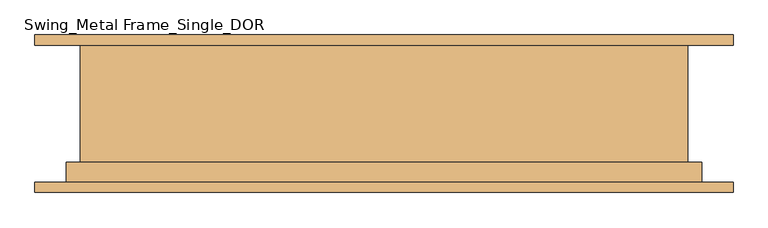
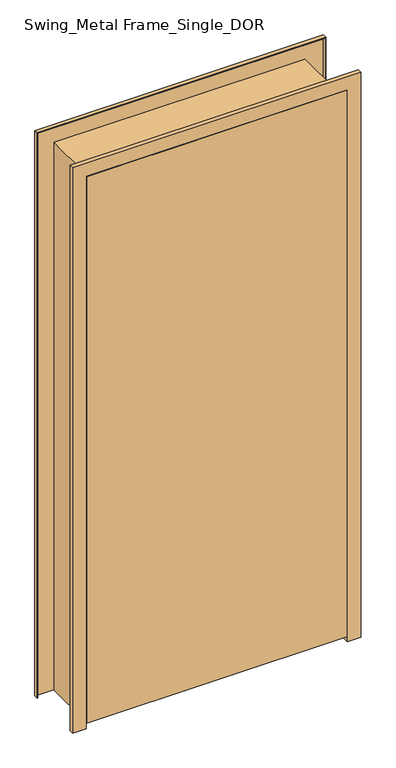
"""IFC4 building model written with IfcOpenShell, lengths in millimetres: door geometry, Swing_Metal Frame_Single_DOR : 2040h x 920 (2110x1020 STUD)."""

from ifc_helpers import new_model, si_unit, frame, origin, place, context, project, spatial, polyline, outline, extrude, faceted_brep, source, transform, mapped, element, save


def swing_metal_frame_single_dor_45d69c81(model_context):
    return source(origin(), model_context, "Body", "SolidModel", [
        extrude(outline(polyline([(460.0, -115.0), (-460.0, -115.0), (-460.0, -75.0), (460.0, -75.0), (460.0, -115.0)])), frame((0.0, 0.0, 20.0), z_axis=(0.0, 0.0, 1.0), x_axis=(1.0, 0.0, 0.0)), (0.0, 0.0, 1.0), 2040.0),
        faceted_brep([(-510.0, 115.0, 0.0), (-442.0, 115.0, 0.0), (-442.0, -73.0, 0.0), (-462.0, -73.0, 0.0), (-462.0, -115.0, 0.0), (-510.0, -115.0, 0.0), (-510.0, -100.0, 0.0), (-508.0, -100.0, 0.0), (-508.0, -113.0, 0.0), (-464.0, -113.0, 0.0), (-464.0, -71.0, 0.0), (-444.0, -71.0, 0.0), (-444.0, 113.0, 0.0), (-508.0, 113.0, 0.0), (-508.0, 100.0, 0.0), (-510.0, 100.0, 0.0), (-510.0, 100.0, 2110.0), (-510.0, 115.0, 2110.0), (-508.0, 100.0, 2108.0), (508.0, 100.0, 2108.0), (508.0, 100.0, 0.0), (510.0, 100.0, 0.0), (510.0, 100.0, 2110.0), (-508.0, 113.0, 2108.0), (-444.0, 113.0, 2044.0), (444.0, 113.0, 2044.0), (444.0, 113.0, 0.0), (508.0, 113.0, 0.0), (508.0, 113.0, 2108.0), (-444.0, -71.0, 2044.0), (-464.0, -71.0, 2064.0), (464.0, -71.0, 2064.0), (464.0, -71.0, 0.0), (444.0, -71.0, 0.0), (444.0, -71.0, 2044.0), (-464.0, -113.0, 2064.0), (-508.0, -113.0, 2108.0), (508.0, -113.0, 2108.0), (508.0, -113.0, 0.0), (464.0, -113.0, 0.0), (464.0, -113.0, 2064.0), (-508.0, -100.0, 2108.0), (-510.0, -100.0, 2110.0), (510.0, -100.0, 2110.0), (510.0, -100.0, 0.0), (508.0, -100.0, 0.0), (508.0, -100.0, 2108.0), (-510.0, -115.0, 2110.0), (-462.0, -115.0, 2062.0), (462.0, -115.0, 2062.0), (462.0, -115.0, 0.0), (510.0, -115.0, 0.0), (510.0, -115.0, 2110.0), (-462.0, -73.0, 2062.0), (-442.0, -73.0, 2042.0), (442.0, -73.0, 2042.0), (442.0, -73.0, 0.0), (462.0, -73.0, 0.0), (462.0, -73.0, 2062.0), (-442.0, 115.0, 2042.0), (510.0, 115.0, 2110.0), (510.0, 115.0, 0.0), (442.0, 115.0, 0.0), (442.0, 115.0, 2042.0)], [[[0, 1, 2, 3, 4, 5, 6, 7, 8, 9, 10, 11, 12, 13, 14, 15]], [[15, 16, 17, 0]], [[14, 18, 19, 20, 21, 22, 16, 15]], [[13, 23, 18, 14]], [[12, 24, 25, 26, 27, 28, 23, 13]], [[11, 29, 24, 12]], [[10, 30, 31, 32, 33, 34, 29, 11]], [[9, 35, 30, 10]], [[8, 36, 37, 38, 39, 40, 35, 9]], [[7, 41, 36, 8]], [[6, 42, 43, 44, 45, 46, 41, 7]], [[5, 47, 42, 6]], [[4, 48, 49, 50, 51, 52, 47, 5]], [[3, 53, 48, 4]], [[2, 54, 55, 56, 57, 58, 53, 3]], [[1, 59, 54, 2]], [[0, 17, 60, 61, 62, 63, 59, 1]], [[22, 21, 61, 60]], [[61, 21, 20, 27, 26, 33, 32, 39, 38, 45, 44, 51, 50, 57, 56, 62]], [[28, 27, 20, 19]], [[34, 33, 26, 25]], [[40, 39, 32, 31]], [[46, 45, 38, 37]], [[52, 51, 44, 43]], [[58, 57, 50, 49]], [[63, 62, 56, 55]], [[16, 22, 60, 17]], [[23, 28, 19, 18]], [[29, 34, 25, 24]], [[35, 40, 31, 30]], [[41, 46, 37, 36]], [[47, 52, 43, 42]], [[53, 58, 49, 48]], [[59, 63, 55, 54]]]),
    ])


if __name__ == "__main__":
    model = new_model("IFC4")
    model_context = context("Model", 3, world=origin())
    ifc_project = project(units=[si_unit("LENGTHUNIT", "METRE", prefix="MILLI")], contexts=[model_context])
    site = spatial("IfcSite", under=ifc_project)
    building = spatial("IfcBuilding", under=site)
    placement = place(None, origin())
    swing_metal_frame_single_dor_shape = swing_metal_frame_single_dor_45d69c81(model_context)
    element("IfcDoor", 1, ObjectType="Swing_Metal Frame_Single_DOR : 2040h x 920 (2110x1020 STUD)", at=placement, inside=building, context=model_context, shape_type="MappedRepresentation", body=[
        mapped(swing_metal_frame_single_dor_shape, transform((0.0, 0.0, 0.0), x_axis=(1.0, 0.0, 0.0), y_axis=(0.0, 1.0, 0.0), z_axis=(0.0, 0.0, 1.0))),
    ])
    save(model, "model.ifc")
